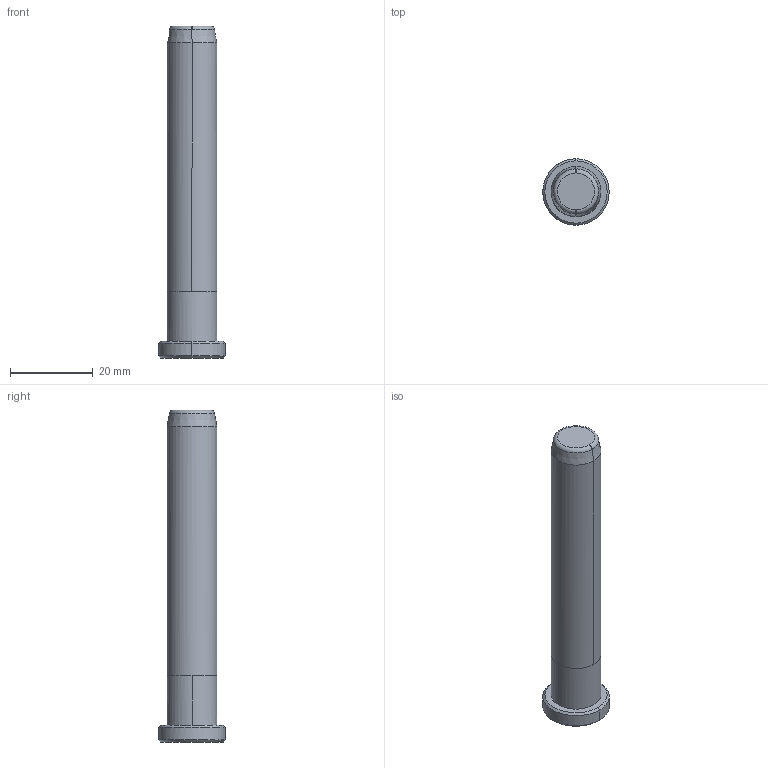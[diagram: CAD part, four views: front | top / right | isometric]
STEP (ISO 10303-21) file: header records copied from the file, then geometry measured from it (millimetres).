
FILE_DESCRIPTION(('CATIA V5 STEP Exchange'),'2;1');
FILE_NAME('C:\Users\Raffaele\Desktop\3D BOLEX\3D FILES CF BOLEX\12-PILLAR REF 858\B85812080.stp','2019-06-20T12:47:41+00:00',('none'),('none'),'CATIA Version 5 Release 20 GA (IN-10)','CATIA V5 STEP AP203','none');
FILE_SCHEMA(('CONFIG_CONTROL_DESIGN'));
Length unit declared in the file: millimetre
Products named in the file (1): B85812080
Bounding box: 16 x 16 x 80 mm (x, y, z)
Volume: 9336.2 mm3; surface area: 3397.6 mm2
Topology: 1 solids, 1 shells, 20 faces, 40 edges, 24 vertices
Faces by surface type: cone 6, cylinder 6, plane 4, torus 4
Entity records: 671 total; most frequent: CARTESIAN_POINT 232, ORIENTED_EDGE 80, DIRECTION 71, AXIS2_PLACEMENT_3D 40, EDGE_CURVE 40, VERTEX_POINT 24, EDGE_LOOP 22, ADVANCED_FACE 20
